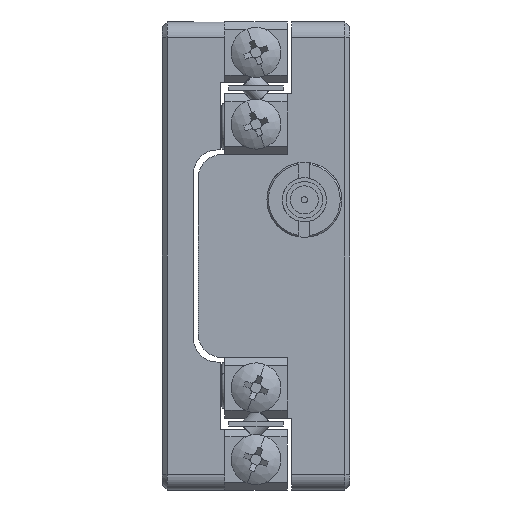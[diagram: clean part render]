
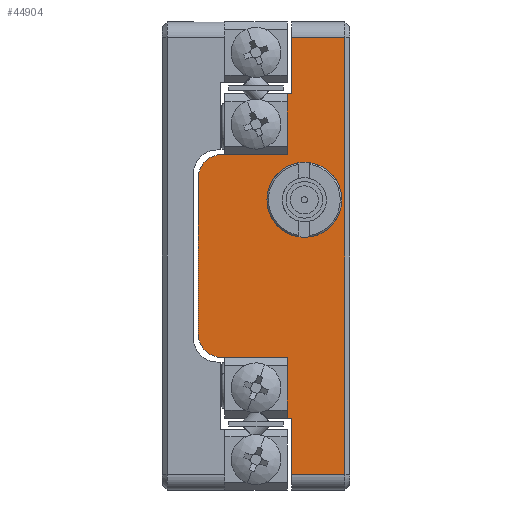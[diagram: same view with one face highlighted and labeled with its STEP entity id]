
A CAD part, left-side view. The second image highlights one B-rep face of the part: STEP entity #44904.
In plain terms, the highlighted planar face has unit normal (-1, 0, 0).
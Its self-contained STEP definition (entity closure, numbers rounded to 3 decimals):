
#489 = CIRCLE ( 'NONE', #36741, 1.5 ) ;
#506 = CARTESIAN_POINT ( 'NONE',  ( -16.5, 0.3, 14. ) ) ;
#683 = DIRECTION ( 'NONE',  ( 0., -1., 0. ) ) ;
#744 = VERTEX_POINT ( 'NONE', #506 ) ;
#827 = VECTOR ( 'NONE', #11024, 1000. ) ;
#838 = CARTESIAN_POINT ( 'NONE',  ( -16.5, 2.9, 3.6 ) ) ;
#1218 = VECTOR ( 'NONE', #7368, 1000. ) ;
#1902 = LINE ( 'NONE', #36411, #827 ) ;
#2187 = DIRECTION ( 'NONE',  ( 0., 0., 1. ) ) ;
#2411 = CARTESIAN_POINT ( 'NONE',  ( -16.5, 9.7, 5. ) ) ;
#2543 = DIRECTION ( 'NONE',  ( 0., 1., 0. ) ) ;
#2565 = VERTEX_POINT ( 'NONE', #40402 ) ;
#2716 = LINE ( 'NONE', #25106, #29843 ) ;
#2878 = DIRECTION ( 'NONE',  ( 0., 0., 1. ) ) ;
#3134 = DIRECTION ( 'NONE',  ( 0., 0., -1. ) ) ;
#3794 = EDGE_CURVE ( 'NONE', #39999, #37168, #21818, .T. ) ;
#3962 = CIRCLE ( 'NONE', #11871, 1.53 ) ;
#4374 = DIRECTION ( 'NONE',  ( 0., 0., 1. ) ) ;
#4383 = CARTESIAN_POINT ( 'NONE',  ( -16.5, 9.7, -10.4 ) ) ;
#4827 = CARTESIAN_POINT ( 'NONE',  ( -16.5, 8.2, -6.5 ) ) ;
#5643 = EDGE_CURVE ( 'NONE', #7973, #12199, #19452, .T. ) ;
#5672 = VERTEX_POINT ( 'NONE', #7898 ) ;
#5828 = CARTESIAN_POINT ( 'NONE',  ( -16.5, 2.9, 5.13 ) ) ;
#6090 = VECTOR ( 'NONE', #2878, 1000. ) ;
#6100 = CARTESIAN_POINT ( 'NONE',  ( -16.5, 9.7, 10.4 ) ) ;
#6155 = ORIENTED_EDGE ( 'NONE', *, *, #44024, .F. ) ;
#7350 = LINE ( 'NONE', #31617, #43868 ) ;
#7368 = DIRECTION ( 'NONE',  ( 0., 0., 1. ) ) ;
#7764 = VECTOR ( 'NONE', #42127, 1000. ) ;
#7898 = CARTESIAN_POINT ( 'NONE',  ( -16.5, 4., 6.5 ) ) ;
#7973 = VERTEX_POINT ( 'NONE', #20088 ) ;
#8903 = EDGE_CURVE ( 'NONE', #2565, #41219, #1902, .T. ) ;
#8989 = ORIENTED_EDGE ( 'NONE', *, *, #3794, .F. ) ;
#9142 = EDGE_LOOP ( 'NONE', ( #25800, #36718 ) ) ;
#9385 = CARTESIAN_POINT ( 'NONE',  ( -16.5, 9.7, -5. ) ) ;
#9393 = DIRECTION ( 'NONE',  ( 0., 0., 1. ) ) ;
#11024 = DIRECTION ( 'NONE',  ( 0., -1., 0. ) ) ;
#11550 = VERTEX_POINT ( 'NONE', #28263 ) ;
#11586 = CARTESIAN_POINT ( 'NONE',  ( -16.5, 9.7, -6.5 ) ) ;
#11816 = EDGE_CURVE ( 'NONE', #37168, #32698, #29462, .T. ) ;
#11871 = AXIS2_PLACEMENT_3D ( 'NONE', #44533, #23380, #2187 ) ;
#12199 = VERTEX_POINT ( 'NONE', #14201 ) ;
#12564 = EDGE_CURVE ( 'NONE', #744, #32698, #17661, .T. ) ;
#12759 = ORIENTED_EDGE ( 'NONE', *, *, #27602, .T. ) ;
#12826 = CARTESIAN_POINT ( 'NONE',  ( -16.5, 4., 6.5 ) ) ;
#12903 = AXIS2_PLACEMENT_3D ( 'NONE', #35471, #14323, #39058 ) ;
#14145 = VECTOR ( 'NONE', #14660, 1000. ) ;
#14201 = CARTESIAN_POINT ( 'NONE',  ( -16.5, 3.7, -10.4 ) ) ;
#14323 = DIRECTION ( 'NONE',  ( -1., 0., 0. ) ) ;
#14660 = DIRECTION ( 'NONE',  ( 0., -1., 0. ) ) ;
#15028 = DIRECTION ( 'NONE',  ( 0., -1., 0. ) ) ;
#15862 = VERTEX_POINT ( 'NONE', #4827 ) ;
#16276 = VECTOR ( 'NONE', #9393, 1000. ) ;
#16644 = ORIENTED_EDGE ( 'NONE', *, *, #43584, .F. ) ;
#16689 = DIRECTION ( 'NONE',  ( 1., 0., 0. ) ) ;
#16945 = EDGE_CURVE ( 'NONE', #5672, #39999, #25691, .T. ) ;
#17001 = AXIS2_PLACEMENT_3D ( 'NONE', #37887, #16689, #41412 ) ;
#17414 = CARTESIAN_POINT ( 'NONE',  ( -16.5, 3.7, -15. ) ) ;
#17513 = ORIENTED_EDGE ( 'NONE', *, *, #17666, .F. ) ;
#17661 = LINE ( 'NONE', #27006, #44748 ) ;
#17666 = EDGE_CURVE ( 'NONE', #2565, #12199, #26611, .T. ) ;
#17975 = ORIENTED_EDGE ( 'NONE', *, *, #12564, .T. ) ;
#18453 = EDGE_CURVE ( 'NONE', #15862, #25129, #24859, .T. ) ;
#18717 = VERTEX_POINT ( 'NONE', #9385 ) ;
#19257 = EDGE_CURVE ( 'NONE', #7973, #25129, #33238, .T. ) ;
#19452 = LINE ( 'NONE', #4383, #37202 ) ;
#19493 = VERTEX_POINT ( 'NONE', #5828 ) ;
#20071 = ORIENTED_EDGE ( 'NONE', *, *, #5643, .T. ) ;
#20088 = CARTESIAN_POINT ( 'NONE',  ( -16.5, 4., -10.4 ) ) ;
#20235 = EDGE_CURVE ( 'NONE', #18717, #15862, #44103, .T. ) ;
#21622 = FACE_BOUND ( 'NONE', #9142, .T. ) ;
#21818 = LINE ( 'NONE', #6100, #30122 ) ;
#22736 = ORIENTED_EDGE ( 'NONE', *, *, #8903, .T. ) ;
#23327 = PLANE ( 'NONE',  #17001 ) ;
#23376 = ORIENTED_EDGE ( 'NONE', *, *, #18453, .T. ) ;
#23380 = DIRECTION ( 'NONE',  ( -1., 0., 0. ) ) ;
#23729 = VECTOR ( 'NONE', #15028, 1000. ) ;
#24269 = ORIENTED_EDGE ( 'NONE', *, *, #32288, .T. ) ;
#24335 = DIRECTION ( 'NONE',  ( -1., 0., 0. ) ) ;
#24472 = VERTEX_POINT ( 'NONE', #2411 ) ;
#24653 = CARTESIAN_POINT ( 'NONE',  ( -16.5, 4., -6.5 ) ) ;
#24844 = AXIS2_PLACEMENT_3D ( 'NONE', #838, #25582, #4374 ) ;
#24859 = LINE ( 'NONE', #11586, #23729 ) ;
#25106 = CARTESIAN_POINT ( 'NONE',  ( -16.5, 0.3, 14. ) ) ;
#25129 = VERTEX_POINT ( 'NONE', #24653 ) ;
#25582 = DIRECTION ( 'NONE',  ( -1., 0., 0. ) ) ;
#25691 = LINE ( 'NONE', #12826, #16276 ) ;
#25800 = ORIENTED_EDGE ( 'NONE', *, *, #30830, .F. ) ;
#25853 = CIRCLE ( 'NONE', #24844, 1.53 ) ;
#26593 = ORIENTED_EDGE ( 'NONE', *, *, #16945, .F. ) ;
#26596 = CARTESIAN_POINT ( 'NONE',  ( -16.5, 3.7, 10.4 ) ) ;
#26611 = LINE ( 'NONE', #17414, #7764 ) ;
#27006 = CARTESIAN_POINT ( 'NONE',  ( -16.5, 9.7, 14. ) ) ;
#27440 = ORIENTED_EDGE ( 'NONE', *, *, #11816, .F. ) ;
#27602 = EDGE_CURVE ( 'NONE', #11550, #24472, #489, .T. ) ;
#28263 = CARTESIAN_POINT ( 'NONE',  ( -16.5, 8.2, 6.5 ) ) ;
#29462 = LINE ( 'NONE', #38971, #1218 ) ;
#29843 = VECTOR ( 'NONE', #35916, 1000. ) ;
#30122 = VECTOR ( 'NONE', #30910, 1000. ) ;
#30830 = EDGE_CURVE ( 'NONE', #19493, #34158, #25853, .T. ) ;
#30910 = DIRECTION ( 'NONE',  ( 0., -1., 0. ) ) ;
#31617 = CARTESIAN_POINT ( 'NONE',  ( -16.5, 9.7, 15. ) ) ;
#32288 = EDGE_CURVE ( 'NONE', #41219, #744, #2716, .T. ) ;
#32440 = CARTESIAN_POINT ( 'NONE',  ( -16.5, 9.7, 6.5 ) ) ;
#32698 = VERTEX_POINT ( 'NONE', #41437 ) ;
#33238 = LINE ( 'NONE', #41839, #6090 ) ;
#34158 = VERTEX_POINT ( 'NONE', #37620 ) ;
#35471 = CARTESIAN_POINT ( 'NONE',  ( -16.5, 8.2, -5. ) ) ;
#35916 = DIRECTION ( 'NONE',  ( 0., 0., 1. ) ) ;
#36411 = CARTESIAN_POINT ( 'NONE',  ( -16.5, 9.7, -14. ) ) ;
#36718 = ORIENTED_EDGE ( 'NONE', *, *, #44343, .F. ) ;
#36741 = AXIS2_PLACEMENT_3D ( 'NONE', #45486, #24335, #3134 ) ;
#36901 = CARTESIAN_POINT ( 'NONE',  ( -16.5, 0.3, -14. ) ) ;
#37168 = VERTEX_POINT ( 'NONE', #26596 ) ;
#37202 = VECTOR ( 'NONE', #683, 1000. ) ;
#37620 = CARTESIAN_POINT ( 'NONE',  ( -16.5, 2.9, 2.07 ) ) ;
#37887 = CARTESIAN_POINT ( 'NONE',  ( -16.5, 9.7, 15. ) ) ;
#38971 = CARTESIAN_POINT ( 'NONE',  ( -16.5, 3.7, 15. ) ) ;
#39033 = ORIENTED_EDGE ( 'NONE', *, *, #19257, .F. ) ;
#39058 = DIRECTION ( 'NONE',  ( 0., 0., -1. ) ) ;
#39350 = FACE_OUTER_BOUND ( 'NONE', #42924, .T. ) ;
#39492 = CARTESIAN_POINT ( 'NONE',  ( -16.5, 4., 10.4 ) ) ;
#39999 = VERTEX_POINT ( 'NONE', #39492 ) ;
#40245 = ORIENTED_EDGE ( 'NONE', *, *, #20235, .T. ) ;
#40402 = CARTESIAN_POINT ( 'NONE',  ( -16.5, 3.7, -14. ) ) ;
#41219 = VERTEX_POINT ( 'NONE', #36901 ) ;
#41223 = LINE ( 'NONE', #32440, #14145 ) ;
#41412 = DIRECTION ( 'NONE',  ( 0., 0., -1. ) ) ;
#41437 = CARTESIAN_POINT ( 'NONE',  ( -16.5, 3.7, 14. ) ) ;
#41839 = CARTESIAN_POINT ( 'NONE',  ( -16.5, 4., -15. ) ) ;
#42127 = DIRECTION ( 'NONE',  ( 0., 0., 1. ) ) ;
#42924 = EDGE_LOOP ( 'NONE', ( #16644, #12759, #6155, #40245, #23376, #39033, #20071, #17513, #22736, #24269, #17975, #27440, #8989, #26593 ) ) ;
#43584 = EDGE_CURVE ( 'NONE', #11550, #5672, #41223, .T. ) ;
#43868 = VECTOR ( 'NONE', #45825, 1000. ) ;
#44024 = EDGE_CURVE ( 'NONE', #18717, #24472, #7350, .T. ) ;
#44103 = CIRCLE ( 'NONE', #12903, 1.5 ) ;
#44343 = EDGE_CURVE ( 'NONE', #34158, #19493, #3962, .T. ) ;
#44533 = CARTESIAN_POINT ( 'NONE',  ( -16.5, 2.9, 3.6 ) ) ;
#44748 = VECTOR ( 'NONE', #2543, 1000. ) ;
#44904 = ADVANCED_FACE ( 'NONE', ( #21622, #39350 ), #23327, .F. ) ;
#45486 = CARTESIAN_POINT ( 'NONE',  ( -16.5, 8.2, 5. ) ) ;
#45825 = DIRECTION ( 'NONE',  ( 0., 0., 1. ) ) ;
